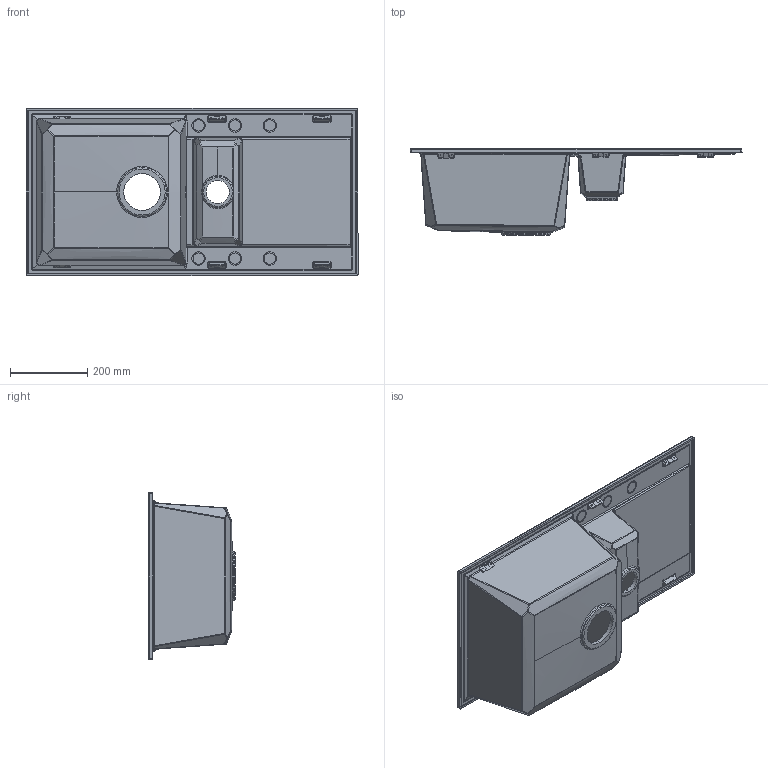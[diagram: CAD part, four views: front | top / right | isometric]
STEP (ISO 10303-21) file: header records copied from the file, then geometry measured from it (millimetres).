
FILE_DESCRIPTION (( 'STEP AP203' ), '1' );
FILE_NAME ('3d_easy_425.STEP', '2021-06-04T09:39:51', ( '' ), ( '' ), 'SwSTEP 2.0', 'SolidWorks 2020', '' );
FILE_SCHEMA (( 'CONFIG_CONTROL_DESIGN' ));
Products named in the file (1): 3d_easy_425
Bounding box: 860 x 224 x 435 mm (x, y, z)
Volume: 5648709 mm3; surface area: 1415569.1 mm2
Topology: 1 solids, 1 shells, 934 faces, 2154 edges, 1207 vertices
Faces by surface type: bspline 382, cylinder 297, plane 121, sphere 91, torus 25, cone 18
Entity records: 34744 total; most frequent: CARTESIAN_POINT 16697, ORIENTED_EDGE 4204, DIRECTION 3261, EDGE_CURVE 2102, AXIS2_PLACEMENT_3D 1362, VERTEX_POINT 1200, EDGE_LOOP 970, ADVANCED_FACE 934
